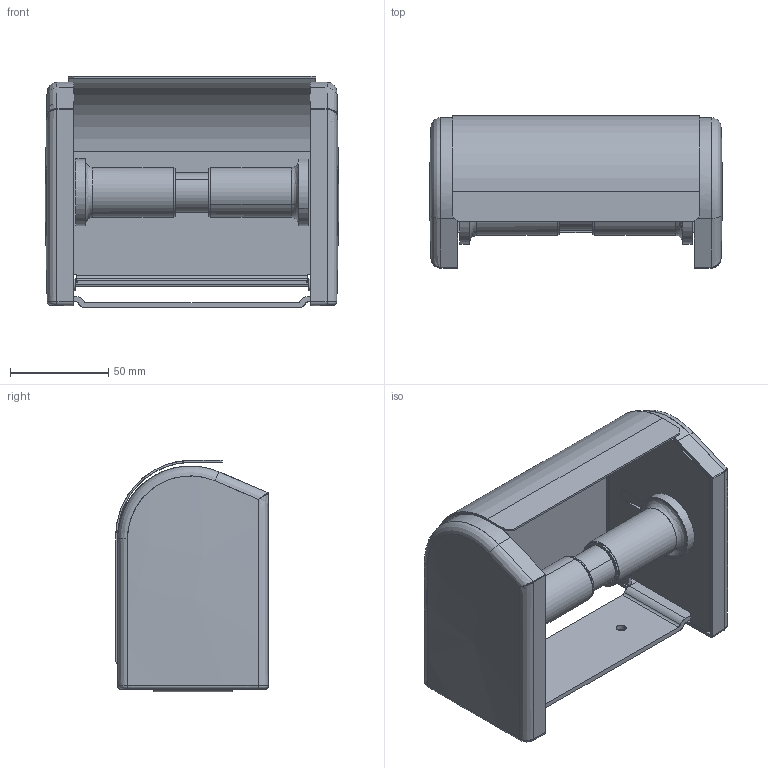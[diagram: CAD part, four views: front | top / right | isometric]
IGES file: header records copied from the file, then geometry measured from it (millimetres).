
Start section: SolidWorks IGES file using analytic representation for surfaces
Global section: file name: G:\Projects\New project\For Marketing\IGS\IGS\2050159VW.IGS; native system: SolidWorks 2010; preprocessor: SolidWorks 2010; author: linda; date: 151008.154603; units: millimetre
Bounding box: 148.92 x 77.68 x 117.49 mm (x, y, z)
Surface area: 110585.5 mm2 (no closed solid volume)
Topology: 0 solids, 0 shells, 177 faces, 2668 edges, 2666 vertices
Faces by surface type: bspline 116, revolution 61
